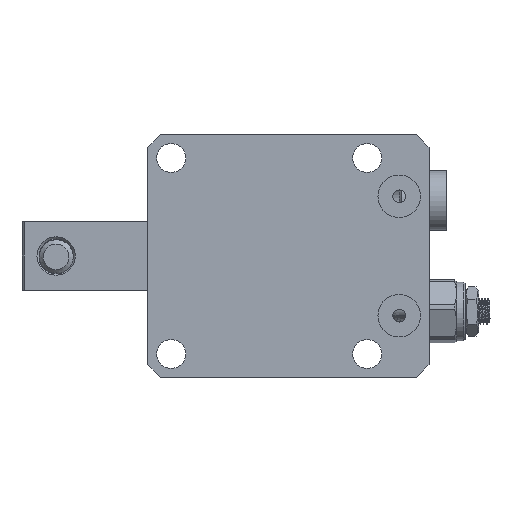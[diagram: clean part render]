
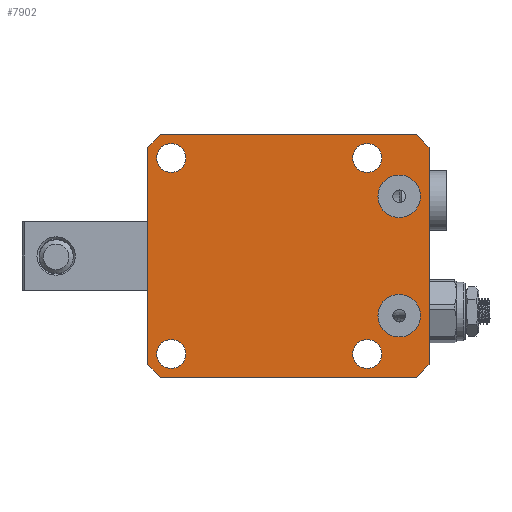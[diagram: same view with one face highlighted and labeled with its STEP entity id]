
A CAD part, front view. The second image highlights one B-rep face of the part: STEP entity #7902.
In plain terms, the highlighted planar face has unit normal (0, -1, 0).
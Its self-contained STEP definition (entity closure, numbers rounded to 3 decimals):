
#295=PLANE('',#8787);
#467=FACE_BOUND('',#1443,.T.);
#468=FACE_BOUND('',#1444,.T.);
#469=FACE_BOUND('',#1445,.T.);
#470=FACE_BOUND('',#1446,.T.);
#471=FACE_BOUND('',#1447,.T.);
#472=FACE_BOUND('',#1448,.T.);
#971=FACE_OUTER_BOUND('',#1442,.T.);
#1442=EDGE_LOOP('',(#5567,#5568,#5569,#5570,#5571,#5572,#5573,#5574));
#1443=EDGE_LOOP('',(#5575));
#1444=EDGE_LOOP('',(#5576));
#1445=EDGE_LOOP('',(#5577));
#1446=EDGE_LOOP('',(#5578));
#1447=EDGE_LOOP('',(#5579));
#1448=EDGE_LOOP('',(#5580));
#1973=LINE('',#11998,#2513);
#1983=LINE('',#12017,#2523);
#2005=LINE('',#12070,#2545);
#2007=LINE('',#12074,#2547);
#2008=LINE('',#12076,#2548);
#2009=LINE('',#12078,#2549);
#2010=LINE('',#12080,#2550);
#2011=LINE('',#12081,#2551);
#2513=VECTOR('',#9687,1000.);
#2523=VECTOR('',#9699,1000.);
#2545=VECTOR('',#9747,1000.);
#2547=VECTOR('',#9751,1000.);
#2548=VECTOR('',#9752,1000.);
#2549=VECTOR('',#9753,1000.);
#2550=VECTOR('',#9754,1000.);
#2551=VECTOR('',#9755,1000.);
#3031=CIRCLE('',#8719,5.);
#3033=CIRCLE('',#8722,5.);
#3034=CIRCLE('',#8724,3.4);
#3035=CIRCLE('',#8726,3.4);
#3036=CIRCLE('',#8728,3.4);
#3038=CIRCLE('',#8731,3.4);
#3394=VERTEX_POINT('',#11727);
#3396=VERTEX_POINT('',#11733);
#3397=VERTEX_POINT('',#11737);
#3398=VERTEX_POINT('',#11741);
#3399=VERTEX_POINT('',#11745);
#3401=VERTEX_POINT('',#11751);
#3439=VERTEX_POINT('',#11995);
#3440=VERTEX_POINT('',#11997);
#3448=VERTEX_POINT('',#12015);
#3466=VERTEX_POINT('',#12069);
#3467=VERTEX_POINT('',#12073);
#3468=VERTEX_POINT('',#12075);
#3469=VERTEX_POINT('',#12077);
#3470=VERTEX_POINT('',#12079);
#4192=EDGE_CURVE('',#3394,#3394,#3031,.T.);
#4195=EDGE_CURVE('',#3396,#3396,#3033,.T.);
#4196=EDGE_CURVE('',#3397,#3397,#3034,.T.);
#4198=EDGE_CURVE('',#3398,#3398,#3035,.T.);
#4200=EDGE_CURVE('',#3399,#3399,#3036,.T.);
#4203=EDGE_CURVE('',#3401,#3401,#3038,.T.);
#4257=EDGE_CURVE('',#3439,#3440,#1973,.T.);
#4267=EDGE_CURVE('',#3448,#3439,#1983,.T.);
#4294=EDGE_CURVE('',#3466,#3440,#2005,.T.);
#4296=EDGE_CURVE('',#3448,#3467,#2007,.T.);
#4297=EDGE_CURVE('',#3467,#3468,#2008,.T.);
#4298=EDGE_CURVE('',#3468,#3469,#2009,.T.);
#4299=EDGE_CURVE('',#3469,#3470,#2010,.T.);
#4300=EDGE_CURVE('',#3470,#3466,#2011,.T.);
#5567=ORIENTED_EDGE('',*,*,#4257,.F.);
#5568=ORIENTED_EDGE('',*,*,#4267,.F.);
#5569=ORIENTED_EDGE('',*,*,#4296,.T.);
#5570=ORIENTED_EDGE('',*,*,#4297,.T.);
#5571=ORIENTED_EDGE('',*,*,#4298,.T.);
#5572=ORIENTED_EDGE('',*,*,#4299,.T.);
#5573=ORIENTED_EDGE('',*,*,#4300,.T.);
#5574=ORIENTED_EDGE('',*,*,#4294,.T.);
#5575=ORIENTED_EDGE('',*,*,#4192,.T.);
#5576=ORIENTED_EDGE('',*,*,#4195,.T.);
#5577=ORIENTED_EDGE('',*,*,#4196,.T.);
#5578=ORIENTED_EDGE('',*,*,#4198,.T.);
#5579=ORIENTED_EDGE('',*,*,#4200,.T.);
#5580=ORIENTED_EDGE('',*,*,#4203,.T.);
#7902=ADVANCED_FACE('',(#971,#467,#468,#469,#470,#471,#472),#295,.T.);
#8719=AXIS2_PLACEMENT_3D('',#11729,#9556,#9557);
#8722=AXIS2_PLACEMENT_3D('',#11735,#9563,#9564);
#8724=AXIS2_PLACEMENT_3D('',#11738,#9567,#9568);
#8726=AXIS2_PLACEMENT_3D('',#11742,#9572,#9573);
#8728=AXIS2_PLACEMENT_3D('',#11746,#9577,#9578);
#8731=AXIS2_PLACEMENT_3D('',#11752,#9584,#9585);
#8787=AXIS2_PLACEMENT_3D('',#12072,#9749,#9750);
#9556=DIRECTION('center_axis',(0.,1.,0.));
#9557=DIRECTION('ref_axis',(0.,0.,-1.));
#9563=DIRECTION('center_axis',(0.,1.,0.));
#9564=DIRECTION('ref_axis',(0.,0.,-1.));
#9567=DIRECTION('center_axis',(0.,1.,0.));
#9568=DIRECTION('ref_axis',(0.,0.,1.));
#9572=DIRECTION('center_axis',(0.,1.,0.));
#9573=DIRECTION('ref_axis',(0.,0.,1.));
#9577=DIRECTION('center_axis',(0.,1.,0.));
#9578=DIRECTION('ref_axis',(0.,0.,1.));
#9584=DIRECTION('center_axis',(0.,1.,0.));
#9585=DIRECTION('ref_axis',(0.,0.,1.));
#9687=DIRECTION('',(1.,0.,0.));
#9699=DIRECTION('',(0.707,0.,0.707));
#9747=DIRECTION('',(-0.707,0.,0.707));
#9749=DIRECTION('center_axis',(0.,-1.,0.));
#9750=DIRECTION('ref_axis',(0.,0.,-1.));
#9751=DIRECTION('',(0.,0.,-1.));
#9752=DIRECTION('',(0.707,0.,-0.707));
#9753=DIRECTION('',(1.,0.,0.));
#9754=DIRECTION('',(0.707,0.,0.707));
#9755=DIRECTION('',(0.,0.,1.));
#11727=CARTESIAN_POINT('',(-404.549,141.613,-9.));
#11729=CARTESIAN_POINT('Origin',(-404.549,141.613,-14.));
#11733=CARTESIAN_POINT('',(-404.549,141.613,19.));
#11735=CARTESIAN_POINT('Origin',(-404.549,141.613,14.));
#11737=CARTESIAN_POINT('',(-458.049,141.613,19.6));
#11738=CARTESIAN_POINT('Origin',(-458.049,141.613,23.));
#11741=CARTESIAN_POINT('',(-412.049,141.613,19.6));
#11742=CARTESIAN_POINT('Origin',(-412.049,141.613,23.));
#11745=CARTESIAN_POINT('',(-412.049,141.613,-26.4));
#11746=CARTESIAN_POINT('Origin',(-412.049,141.613,-23.));
#11751=CARTESIAN_POINT('',(-458.049,141.613,-26.4));
#11752=CARTESIAN_POINT('Origin',(-458.049,141.613,-23.));
#11995=CARTESIAN_POINT('',(-460.549,141.613,28.5));
#11997=CARTESIAN_POINT('',(-400.549,141.613,28.5));
#11998=CARTESIAN_POINT('',(-460.549,141.613,28.5));
#12015=CARTESIAN_POINT('',(-463.549,141.613,25.5));
#12017=CARTESIAN_POINT('',(-463.549,141.613,25.5));
#12069=CARTESIAN_POINT('',(-397.549,141.613,25.5));
#12070=CARTESIAN_POINT('',(-397.549,141.613,25.5));
#12072=CARTESIAN_POINT('Origin',(-463.549,141.613,-28.5));
#12073=CARTESIAN_POINT('',(-463.549,141.613,-25.5));
#12074=CARTESIAN_POINT('',(-463.549,141.613,-28.5));
#12075=CARTESIAN_POINT('',(-460.549,141.613,-28.5));
#12076=CARTESIAN_POINT('',(-463.549,141.613,-25.5));
#12077=CARTESIAN_POINT('',(-400.549,141.613,-28.5));
#12078=CARTESIAN_POINT('',(-463.549,141.613,-28.5));
#12079=CARTESIAN_POINT('',(-397.549,141.613,-25.5));
#12080=CARTESIAN_POINT('',(-400.549,141.613,-28.5));
#12081=CARTESIAN_POINT('',(-397.549,141.613,-28.5));
